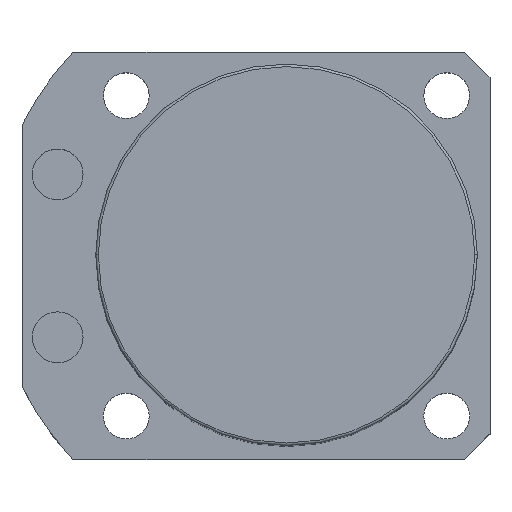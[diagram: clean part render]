
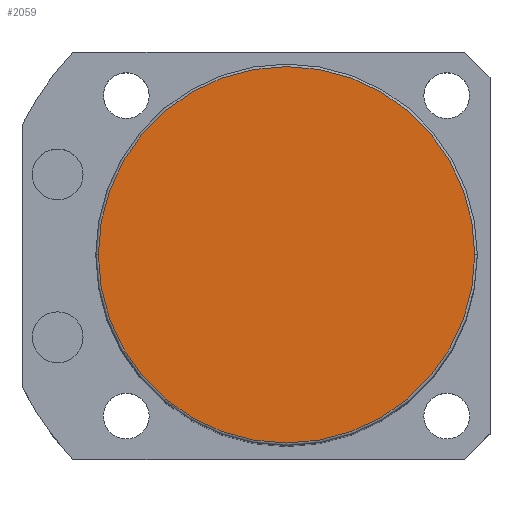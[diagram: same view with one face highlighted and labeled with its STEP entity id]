
A CAD part, top view. The second image highlights one B-rep face of the part: STEP entity #2059.
In plain terms, the highlighted planar face has unit normal (0, 0, 1).
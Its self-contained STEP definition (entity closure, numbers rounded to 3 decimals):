
#23 = DIRECTION ( 'NONE',  ( 0., 0., 1. ) ) ;
#712 = CIRCLE ( 'NONE', #4958, 37. ) ;
#751 = DIRECTION ( 'NONE',  ( 1., 0., 0. ) ) ;
#1191 = AXIS2_PLACEMENT_3D ( 'NONE', #5653, #23, #1965 ) ;
#1583 = EDGE_CURVE ( 'NONE', #3953, #6050, #712, .T. ) ;
#1701 = AXIS2_PLACEMENT_3D ( 'NONE', #2850, #3338, #751 ) ;
#1917 = PLANE ( 'NONE',  #1191 ) ;
#1959 = EDGE_CURVE ( 'NONE', #6050, #3953, #5870, .T. ) ;
#1965 = DIRECTION ( 'NONE',  ( 1., 0., 0. ) ) ;
#2059 = ADVANCED_FACE ( 'NONE', ( #5642 ), #1917, .T. ) ;
#2084 = DIRECTION ( 'NONE',  ( 0., 0., 1. ) ) ;
#2850 = CARTESIAN_POINT ( 'NONE',  ( 0., 0., 135.5 ) ) ;
#2871 = CARTESIAN_POINT ( 'NONE',  ( -37., 0., 135.5 ) ) ;
#3338 = DIRECTION ( 'NONE',  ( 0., 0., 1. ) ) ;
#3516 = DIRECTION ( 'NONE',  ( 1., 0., 0. ) ) ;
#3953 = VERTEX_POINT ( 'NONE', #4419 ) ;
#4419 = CARTESIAN_POINT ( 'NONE',  ( 37., 0., 135.5 ) ) ;
#4468 = ORIENTED_EDGE ( 'NONE', *, *, #1583, .T. ) ;
#4958 = AXIS2_PLACEMENT_3D ( 'NONE', #5591, #2084, #3516 ) ;
#5591 = CARTESIAN_POINT ( 'NONE',  ( 0., 0., 135.5 ) ) ;
#5642 = FACE_OUTER_BOUND ( 'NONE', #6377, .T. ) ;
#5653 = CARTESIAN_POINT ( 'NONE',  ( 0., 0., 135.5 ) ) ;
#5870 = CIRCLE ( 'NONE', #1701, 37. ) ;
#6050 = VERTEX_POINT ( 'NONE', #2871 ) ;
#6282 = ORIENTED_EDGE ( 'NONE', *, *, #1959, .T. ) ;
#6377 = EDGE_LOOP ( 'NONE', ( #4468, #6282 ) ) ;
